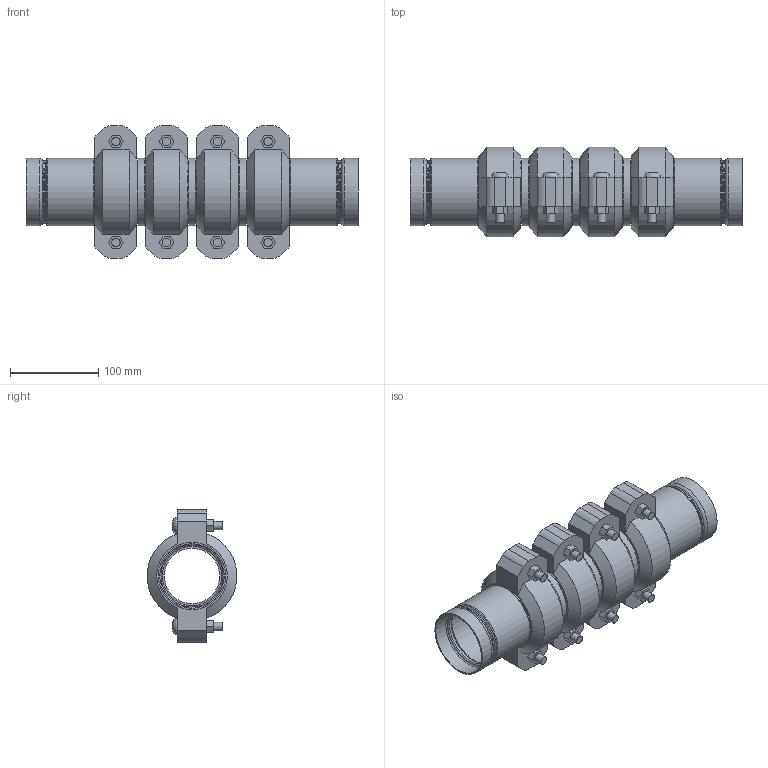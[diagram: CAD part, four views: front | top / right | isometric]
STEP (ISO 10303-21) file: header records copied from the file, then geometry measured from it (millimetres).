
FILE_DESCRIPTION(/* description */ ('VIC STRENGTHIN 100 EXPANSION JOINT 4 COUPLINGS COMPRESSED STYLE E155 (ST1)','CAx-IF Rec.Pracs.---Representation and Presentation of Product Manufacturing Information (PMI)---4.0---2014-10-13'),/* implementation_level */ '2;1');
FILE_NAME(/* name */ 'C:\Users\Vjadhav\AppData\Roaming\Autodesk\ApplicationPlugins\Victaulic.Temp\A975\Victaulic_SS-StrengThin 100_Expansion Joint_Compressed_4 Couplings_Style E155 (ST1)_02.5 (76.1) (65).stp',/* time_stamp */ '2021-07-23T12:31:22+05:00',/* author */ ('kkamble'),/* organization */ ('Victaulic'),/* preprocessor_version */ 'ST-DEVELOPER v17.2',/* originating_system */ 'Autodesk Inventor 2019',/* authorisation */ '');
FILE_SCHEMA (('AP242_MANAGED_MODEL_BASED_3D_ENGINEERING_MIM_LF { 1 0 10303 442 1 1 4 }'));
Length unit declared in the file: inch
Products named in the file (4): E155-02.5 (76.1); E494G-02.5 (76.1); Nipple-02.5 (76.1); 075-02.5 (76.1)
Assembly tree (9 placements, depth 2):
  E155-02.5 (76.1)
    E494G-02.5 (76.1)  x2
    Nipple-02.5 (76.1)  x3
    075-02.5 (76.1)  x4
Bounding box: 375.92 x 101.25 x 149.86 mm (x, y, z)
Volume: 1188206.7 mm3; surface area: 364876 mm2
Topology: 9 solids, 17 shells, 316 faces, 836 edges, 590 vertices
Faces by surface type: plane 166, cylinder 90, torus 32, cone 20, bspline 8
Full cylindrical faces by diameter (mm): 9.525 x16, 11.43 x8, 62.713 x3, 67.158 x2, 69.063 x2, 70.358 x2, 72.263 x8, 73 x6, 76.2 x19
Entity records: 3681 total; most frequent: CARTESIAN_POINT 673, DIRECTION 645, ORIENTED_EDGE 544, AXIS2_PLACEMENT_3D 273, EDGE_CURVE 272, VERTEX_POINT 195, CIRCLE 163, EDGE_LOOP 121
